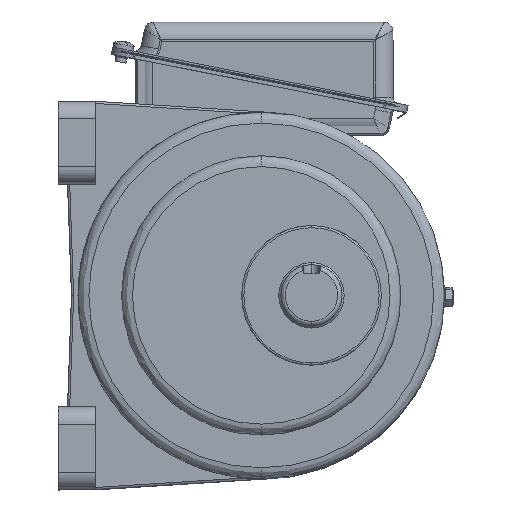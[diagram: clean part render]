
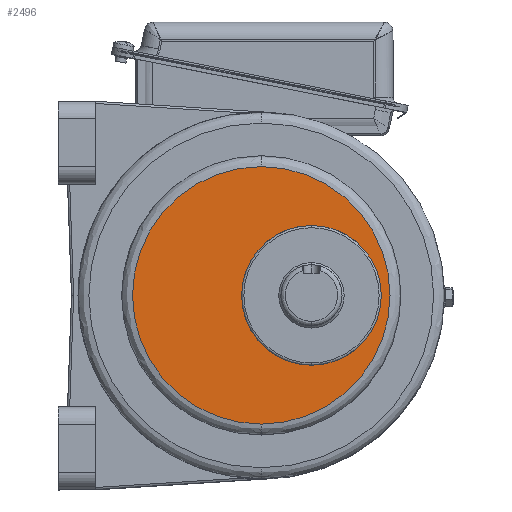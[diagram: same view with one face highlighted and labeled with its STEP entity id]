
A CAD part, top view. The second image highlights one B-rep face of the part: STEP entity #2496.
In plain terms, the highlighted planar face has unit normal (0, 0, 1).
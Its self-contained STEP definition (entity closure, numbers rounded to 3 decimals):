
#2496 = ADVANCED_FACE ( 'NONE', ( #25606, #25591 ), #10242, .T. ) ;
#10242 = PLANE ( 'NONE',  #25583 ) ;
#10243 = CARTESIAN_POINT ( 'NONE',  ( 0., 0., 94.5 ) ) ;
#10244 = DIRECTION ( 'NONE',  ( 0., 0., 1. ) ) ;
#10245 = DIRECTION ( 'NONE',  ( 1., 0., 0. ) ) ;
#12228 = EDGE_CURVE ( 'NONE', #16422, #16421, #13966, .T. ) ;
#13966 = CIRCLE ( 'NONE', #40689, 59. ) ;
#14149 = CIRCLE ( 'NONE', #27504, 32. ) ;
#16212 = VERTEX_POINT ( 'NONE', #29226 ) ;
#16214 = VERTEX_POINT ( 'NONE', #29228 ) ;
#16421 = VERTEX_POINT ( 'NONE', #29507 ) ;
#16422 = VERTEX_POINT ( 'NONE', #29509 ) ;
#21488 = ORIENTED_EDGE ( 'NONE', *, *, #31258, .T. ) ;
#21490 = ORIENTED_EDGE ( 'NONE', *, *, #12228, .T. ) ;
#21491 = ORIENTED_EDGE ( 'NONE', *, *, #26712, .F. ) ;
#21493 = ORIENTED_EDGE ( 'NONE', *, *, #31297, .F. ) ;
#22541 = CARTESIAN_POINT ( 'NONE',  ( 0., 0., 94.5 ) ) ;
#22542 = DIRECTION ( 'NONE',  ( 0., 0., 1. ) ) ;
#22543 = DIRECTION ( 'NONE',  ( 1., 0., 0. ) ) ;
#24451 = EDGE_LOOP ( 'NONE', ( #21490, #21488 ) ) ;
#24883 = EDGE_LOOP ( 'NONE', ( #21493, #21491 ) ) ;
#25583 = AXIS2_PLACEMENT_3D ( 'NONE', #10243, #10244, #10245 ) ;
#25591 = FACE_OUTER_BOUND ( 'NONE', #24451, .T. ) ;
#25606 = FACE_BOUND ( 'NONE', #24883, .T. ) ;
#26712 = EDGE_CURVE ( 'NONE', #16214, #16212, #14149, .T. ) ;
#27504 = AXIS2_PLACEMENT_3D ( 'NONE', #32527, #32543, #32544 ) ;
#29226 = CARTESIAN_POINT ( 'NONE',  ( 32., 23., 94.5 ) ) ;
#29228 = CARTESIAN_POINT ( 'NONE',  ( -32., 23., 94.5 ) ) ;
#29507 = CARTESIAN_POINT ( 'NONE',  ( -59., 0., 94.5 ) ) ;
#29509 = CARTESIAN_POINT ( 'NONE',  ( 59., 0., 94.5 ) ) ;
#31258 = EDGE_CURVE ( 'NONE', #16421, #16422, #35543, .T. ) ;
#31297 = EDGE_CURVE ( 'NONE', #16212, #16214, #35564, .T. ) ;
#32527 = CARTESIAN_POINT ( 'NONE',  ( 0., 23., 94.5 ) ) ;
#32543 = DIRECTION ( 'NONE',  ( 0., 0., 1. ) ) ;
#32544 = DIRECTION ( 'NONE',  ( 1., 0., 0. ) ) ;
#35543 = CIRCLE ( 'NONE', #39088, 59. ) ;
#35564 = CIRCLE ( 'NONE', #39119, 32. ) ;
#38242 = CARTESIAN_POINT ( 'NONE',  ( 0., 0., 94.5 ) ) ;
#38243 = DIRECTION ( 'NONE',  ( 0., 0., 1. ) ) ;
#38244 = DIRECTION ( 'NONE',  ( 1., 0., 0. ) ) ;
#38374 = CARTESIAN_POINT ( 'NONE',  ( 0., 23., 94.5 ) ) ;
#38381 = DIRECTION ( 'NONE',  ( 0., 0., 1. ) ) ;
#38382 = DIRECTION ( 'NONE',  ( 1., 0., 0. ) ) ;
#39088 = AXIS2_PLACEMENT_3D ( 'NONE', #38242, #38243, #38244 ) ;
#39119 = AXIS2_PLACEMENT_3D ( 'NONE', #38374, #38381, #38382 ) ;
#40689 = AXIS2_PLACEMENT_3D ( 'NONE', #22541, #22542, #22543 ) ;
